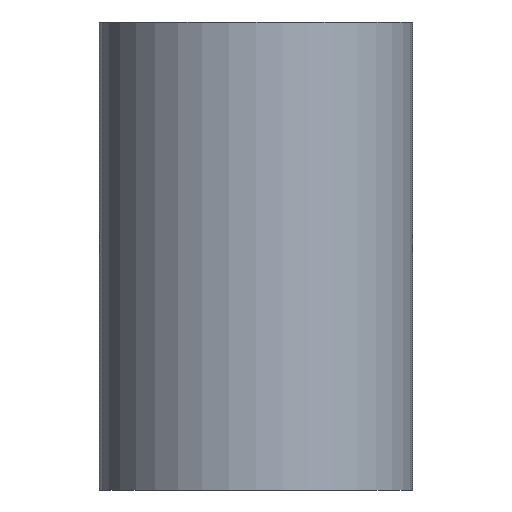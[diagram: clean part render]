
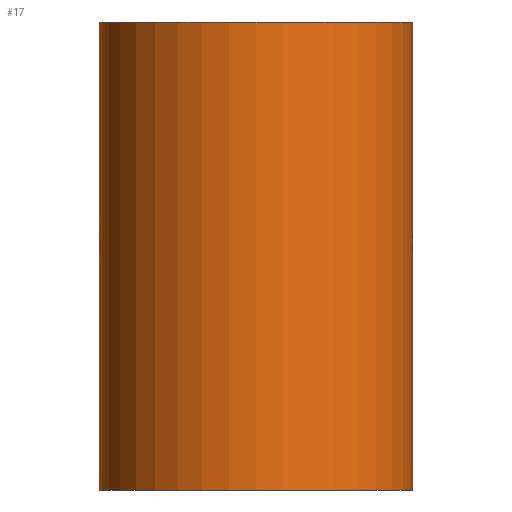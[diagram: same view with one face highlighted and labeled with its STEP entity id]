
A CAD part, front view. The second image highlights one B-rep face of the part: STEP entity #17.
In plain terms, the highlighted cylindrical face has radius 18 mm (diameter 36 mm), a full revolution.
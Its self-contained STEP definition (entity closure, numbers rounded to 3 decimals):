
#17 = ADVANCED_FACE('',(#18),#31,.T.);
#18 = FACE_BOUND('',#19,.T.);
#19 = EDGE_LOOP('',(#20,#54,#77,#104));
#20 = ORIENTED_EDGE('',*,*,#21,.F.);
#21 = EDGE_CURVE('',#22,#22,#24,.T.);
#22 = VERTEX_POINT('',#23);
#23 = CARTESIAN_POINT('',(18.,0.,53.8));
#24 = SURFACE_CURVE('',#25,(#30,#42),.PCURVE_S1.);
#25 = CIRCLE('',#26,18.);
#26 = AXIS2_PLACEMENT_3D('',#27,#28,#29);
#27 = CARTESIAN_POINT('',(0.,0.,53.8));
#28 = DIRECTION('',(0.,0.,1.));
#29 = DIRECTION('',(1.,0.,0.));
#30 = PCURVE('',#31,#36);
#31 = CYLINDRICAL_SURFACE('',#32,18.);
#32 = AXIS2_PLACEMENT_3D('',#33,#34,#35);
#33 = CARTESIAN_POINT('',(0.,0.,0.));
#34 = DIRECTION('',(0.,0.,1.));
#35 = DIRECTION('',(1.,0.,0.));
#36 = DEFINITIONAL_REPRESENTATION('',(#37),#41);
#37 = LINE('',#38,#39);
#38 = CARTESIAN_POINT('',(0.,53.8));
#39 = VECTOR('',#40,1.);
#40 = DIRECTION('',(1.,0.));
#41 = ( GEOMETRIC_REPRESENTATION_CONTEXT(2) 
PARAMETRIC_REPRESENTATION_CONTEXT() REPRESENTATION_CONTEXT('2D SPACE',''
  ) );
#42 = PCURVE('',#43,#48);
#43 = PLANE('',#44);
#44 = AXIS2_PLACEMENT_3D('',#45,#46,#47);
#45 = CARTESIAN_POINT('',(0.,0.,53.8));
#46 = DIRECTION('',(0.,0.,1.));
#47 = DIRECTION('',(1.,0.,0.));
#48 = DEFINITIONAL_REPRESENTATION('',(#49),#53);
#49 = CIRCLE('',#50,18.);
#50 = AXIS2_PLACEMENT_2D('',#51,#52);
#51 = CARTESIAN_POINT('',(0.,0.));
#52 = DIRECTION('',(1.,0.));
#53 = ( GEOMETRIC_REPRESENTATION_CONTEXT(2) 
PARAMETRIC_REPRESENTATION_CONTEXT() REPRESENTATION_CONTEXT('2D SPACE',''
  ) );
#54 = ORIENTED_EDGE('',*,*,#55,.F.);
#55 = EDGE_CURVE('',#56,#22,#58,.T.);
#56 = VERTEX_POINT('',#57);
#57 = CARTESIAN_POINT('',(18.,0.,0.));
#58 = SEAM_CURVE('',#59,(#63,#70),.PCURVE_S1.);
#59 = LINE('',#60,#61);
#60 = CARTESIAN_POINT('',(18.,0.,0.));
#61 = VECTOR('',#62,1.);
#62 = DIRECTION('',(0.,0.,1.));
#63 = PCURVE('',#31,#64);
#64 = DEFINITIONAL_REPRESENTATION('',(#65),#69);
#65 = LINE('',#66,#67);
#66 = CARTESIAN_POINT('',(6.283,-0.));
#67 = VECTOR('',#68,1.);
#68 = DIRECTION('',(0.,1.));
#69 = ( GEOMETRIC_REPRESENTATION_CONTEXT(2) 
PARAMETRIC_REPRESENTATION_CONTEXT() REPRESENTATION_CONTEXT('2D SPACE',''
  ) );
#70 = PCURVE('',#31,#71);
#71 = DEFINITIONAL_REPRESENTATION('',(#72),#76);
#72 = LINE('',#73,#74);
#73 = CARTESIAN_POINT('',(0.,-0.));
#74 = VECTOR('',#75,1.);
#75 = DIRECTION('',(0.,1.));
#76 = ( GEOMETRIC_REPRESENTATION_CONTEXT(2) 
PARAMETRIC_REPRESENTATION_CONTEXT() REPRESENTATION_CONTEXT('2D SPACE',''
  ) );
#77 = ORIENTED_EDGE('',*,*,#78,.T.);
#78 = EDGE_CURVE('',#56,#56,#79,.T.);
#79 = SURFACE_CURVE('',#80,(#85,#92),.PCURVE_S1.);
#80 = CIRCLE('',#81,18.);
#81 = AXIS2_PLACEMENT_3D('',#82,#83,#84);
#82 = CARTESIAN_POINT('',(0.,0.,0.));
#83 = DIRECTION('',(0.,0.,1.));
#84 = DIRECTION('',(1.,0.,0.));
#85 = PCURVE('',#31,#86);
#86 = DEFINITIONAL_REPRESENTATION('',(#87),#91);
#87 = LINE('',#88,#89);
#88 = CARTESIAN_POINT('',(0.,0.));
#89 = VECTOR('',#90,1.);
#90 = DIRECTION('',(1.,0.));
#91 = ( GEOMETRIC_REPRESENTATION_CONTEXT(2) 
PARAMETRIC_REPRESENTATION_CONTEXT() REPRESENTATION_CONTEXT('2D SPACE',''
  ) );
#92 = PCURVE('',#93,#98);
#93 = PLANE('',#94);
#94 = AXIS2_PLACEMENT_3D('',#95,#96,#97);
#95 = CARTESIAN_POINT('',(0.,0.,0.));
#96 = DIRECTION('',(0.,0.,1.));
#97 = DIRECTION('',(1.,0.,0.));
#98 = DEFINITIONAL_REPRESENTATION('',(#99),#103);
#99 = CIRCLE('',#100,18.);
#100 = AXIS2_PLACEMENT_2D('',#101,#102);
#101 = CARTESIAN_POINT('',(0.,0.));
#102 = DIRECTION('',(1.,0.));
#103 = ( GEOMETRIC_REPRESENTATION_CONTEXT(2) 
PARAMETRIC_REPRESENTATION_CONTEXT() REPRESENTATION_CONTEXT('2D SPACE',''
  ) );
#104 = ORIENTED_EDGE('',*,*,#55,.T.);
